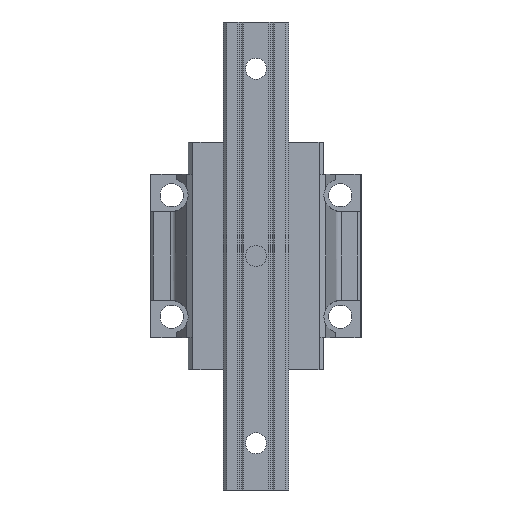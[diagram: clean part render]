
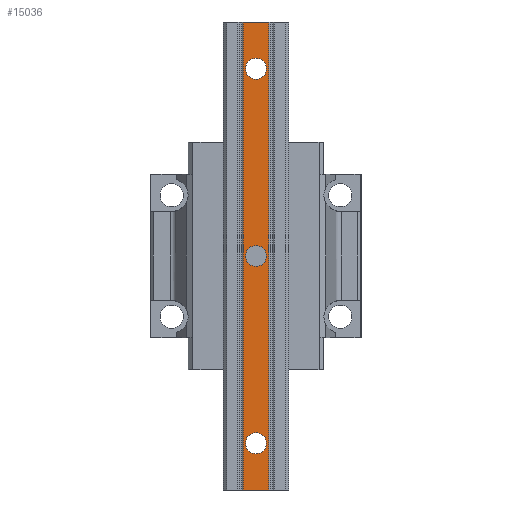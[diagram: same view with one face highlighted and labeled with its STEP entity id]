
A CAD part, front view. The second image highlights one B-rep face of the part: STEP entity #15036.
In plain terms, the highlighted planar face has unit normal (0, -1, 0).
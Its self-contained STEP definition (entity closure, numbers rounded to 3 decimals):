
#107 = EDGE_CURVE ( 'NONE', #26992, #14025, #6551, .T. ) ;
#167 = ORIENTED_EDGE ( 'NONE', *, *, #7181, .T. ) ;
#184 = AXIS2_PLACEMENT_3D ( 'NONE', #27953, #949, #1714 ) ;
#534 = DIRECTION ( 'NONE',  ( 0., 0., 1. ) ) ;
#707 = CARTESIAN_POINT ( 'NONE',  ( 0., -26., -80. ) ) ;
#823 = VERTEX_POINT ( 'NONE', #14010 ) ;
#949 = DIRECTION ( 'NONE',  ( 0., -1., 0. ) ) ;
#1117 = AXIS2_PLACEMENT_3D ( 'NONE', #22608, #1579, #4875 ) ;
#1330 = FACE_OUTER_BOUND ( 'NONE', #8876, .T. ) ;
#1461 = CARTESIAN_POINT ( 'NONE',  ( -5.55, -26., 100. ) ) ;
#1579 = DIRECTION ( 'NONE',  ( 0., 1., 0. ) ) ;
#1693 = CARTESIAN_POINT ( 'NONE',  ( 5.55, -26., 100. ) ) ;
#1714 = DIRECTION ( 'NONE',  ( 0., 0., -1. ) ) ;
#2122 = VECTOR ( 'NONE', #12591, 1000. ) ;
#2765 = CIRCLE ( 'NONE', #8297, 4.5 ) ;
#3314 = VECTOR ( 'NONE', #11671, 1000. ) ;
#4178 = DIRECTION ( 'NONE',  ( -1., 0., 0. ) ) ;
#4241 = FACE_BOUND ( 'NONE', #27367, .T. ) ;
#4875 = DIRECTION ( 'NONE',  ( -1., 0., 0. ) ) ;
#4937 = CARTESIAN_POINT ( 'NONE',  ( 4.5, -26., -80. ) ) ;
#5235 = EDGE_CURVE ( 'NONE', #25202, #21198, #28513, .T. ) ;
#6551 = LINE ( 'NONE', #23743, #21128 ) ;
#7181 = EDGE_CURVE ( 'NONE', #21198, #25202, #29854, .T. ) ;
#7398 = DIRECTION ( 'NONE',  ( -1., 0., 0. ) ) ;
#7717 = DIRECTION ( 'NONE',  ( -1., 0., 0. ) ) ;
#8297 = AXIS2_PLACEMENT_3D ( 'NONE', #11132, #32367, #12454 ) ;
#8682 = CIRCLE ( 'NONE', #32554, 4.5 ) ;
#8876 = EDGE_LOOP ( 'NONE', ( #11943, #31474, #18367, #9026 ) ) ;
#9026 = ORIENTED_EDGE ( 'NONE', *, *, #107, .T. ) ;
#10164 = VERTEX_POINT ( 'NONE', #4937 ) ;
#10590 = DIRECTION ( 'NONE',  ( 0., 1., 0. ) ) ;
#11046 = DIRECTION ( 'NONE',  ( 0., 1., 0. ) ) ;
#11132 = CARTESIAN_POINT ( 'NONE',  ( 0., -26., 0. ) ) ;
#11236 = DIRECTION ( 'NONE',  ( -1., 0., 0. ) ) ;
#11671 = DIRECTION ( 'NONE',  ( 0., 0., -1. ) ) ;
#11943 = ORIENTED_EDGE ( 'NONE', *, *, #15104, .T. ) ;
#12070 = VERTEX_POINT ( 'NONE', #1693 ) ;
#12454 = DIRECTION ( 'NONE',  ( -1., 0., 0. ) ) ;
#12591 = DIRECTION ( 'NONE',  ( 1., 0., 0. ) ) ;
#13973 = VERTEX_POINT ( 'NONE', #33351 ) ;
#14010 = CARTESIAN_POINT ( 'NONE',  ( -4.5, -26., 0. ) ) ;
#14025 = VERTEX_POINT ( 'NONE', #27792 ) ;
#14392 = CARTESIAN_POINT ( 'NONE',  ( -4.5, -26., 80. ) ) ;
#14498 = AXIS2_PLACEMENT_3D ( 'NONE', #707, #36118, #4178 ) ;
#14525 = VERTEX_POINT ( 'NONE', #1461 ) ;
#14705 = ORIENTED_EDGE ( 'NONE', *, *, #5235, .T. ) ;
#15036 = ADVANCED_FACE ( 'NONE', ( #30069, #4241, #27370, #1330 ), #27174, .T. ) ;
#15104 = EDGE_CURVE ( 'NONE', #14025, #12070, #20427, .T. ) ;
#15265 = AXIS2_PLACEMENT_3D ( 'NONE', #27500, #22132, #7398 ) ;
#16339 = CIRCLE ( 'NONE', #14498, 4.5 ) ;
#16511 = EDGE_LOOP ( 'NONE', ( #36705, #16607 ) ) ;
#16607 = ORIENTED_EDGE ( 'NONE', *, *, #33365, .T. ) ;
#17492 = CARTESIAN_POINT ( 'NONE',  ( 0., -26., 0. ) ) ;
#18159 = DIRECTION ( 'NONE',  ( 1., 0., 0. ) ) ;
#18367 = ORIENTED_EDGE ( 'NONE', *, *, #37144, .T. ) ;
#19156 = VECTOR ( 'NONE', #534, 1000. ) ;
#20179 = EDGE_CURVE ( 'NONE', #14525, #12070, #33652, .T. ) ;
#20427 = LINE ( 'NONE', #32501, #19156 ) ;
#21128 = VECTOR ( 'NONE', #18159, 1000. ) ;
#21198 = VERTEX_POINT ( 'NONE', #21255 ) ;
#21255 = CARTESIAN_POINT ( 'NONE',  ( 4.5, -26., 80. ) ) ;
#21439 = ORIENTED_EDGE ( 'NONE', *, *, #23060, .T. ) ;
#21635 = CARTESIAN_POINT ( 'NONE',  ( 4.5, -26., 0. ) ) ;
#22017 = CIRCLE ( 'NONE', #15265, 4.5 ) ;
#22132 = DIRECTION ( 'NONE',  ( 0., 1., 0. ) ) ;
#22344 = ORIENTED_EDGE ( 'NONE', *, *, #24162, .T. ) ;
#22608 = CARTESIAN_POINT ( 'NONE',  ( 0., -26., 80. ) ) ;
#23060 = EDGE_CURVE ( 'NONE', #10164, #13973, #16339, .T. ) ;
#23316 = LINE ( 'NONE', #37873, #3314 ) ;
#23743 = CARTESIAN_POINT ( 'NONE',  ( 0., -26., -100. ) ) ;
#24162 = EDGE_CURVE ( 'NONE', #13973, #10164, #22017, .T. ) ;
#25202 = VERTEX_POINT ( 'NONE', #14392 ) ;
#26992 = VERTEX_POINT ( 'NONE', #32556 ) ;
#27174 = PLANE ( 'NONE',  #184 ) ;
#27278 = AXIS2_PLACEMENT_3D ( 'NONE', #31073, #10590, #7717 ) ;
#27367 = EDGE_LOOP ( 'NONE', ( #14705, #167 ) ) ;
#27370 = FACE_BOUND ( 'NONE', #16511, .T. ) ;
#27500 = CARTESIAN_POINT ( 'NONE',  ( 0., -26., -80. ) ) ;
#27792 = CARTESIAN_POINT ( 'NONE',  ( 5.55, -26., -100. ) ) ;
#27953 = CARTESIAN_POINT ( 'NONE',  ( -5.55, -26., -100. ) ) ;
#28513 = CIRCLE ( 'NONE', #27278, 4.5 ) ;
#29854 = CIRCLE ( 'NONE', #1117, 4.5 ) ;
#30069 = FACE_BOUND ( 'NONE', #34452, .T. ) ;
#30962 = CARTESIAN_POINT ( 'NONE',  ( 0., -26., 100. ) ) ;
#31073 = CARTESIAN_POINT ( 'NONE',  ( 0., -26., 80. ) ) ;
#31474 = ORIENTED_EDGE ( 'NONE', *, *, #20179, .F. ) ;
#32367 = DIRECTION ( 'NONE',  ( 0., 1., 0. ) ) ;
#32501 = CARTESIAN_POINT ( 'NONE',  ( 5.55, -26., -100. ) ) ;
#32554 = AXIS2_PLACEMENT_3D ( 'NONE', #17492, #11046, #11236 ) ;
#32556 = CARTESIAN_POINT ( 'NONE',  ( -5.55, -26., -100. ) ) ;
#33351 = CARTESIAN_POINT ( 'NONE',  ( -4.5, -26., -80. ) ) ;
#33365 = EDGE_CURVE ( 'NONE', #34912, #823, #2765, .T. ) ;
#33652 = LINE ( 'NONE', #30962, #2122 ) ;
#34452 = EDGE_LOOP ( 'NONE', ( #22344, #21439 ) ) ;
#34912 = VERTEX_POINT ( 'NONE', #21635 ) ;
#35643 = EDGE_CURVE ( 'NONE', #823, #34912, #8682, .T. ) ;
#36118 = DIRECTION ( 'NONE',  ( 0., 1., 0. ) ) ;
#36705 = ORIENTED_EDGE ( 'NONE', *, *, #35643, .T. ) ;
#37144 = EDGE_CURVE ( 'NONE', #14525, #26992, #23316, .T. ) ;
#37873 = CARTESIAN_POINT ( 'NONE',  ( -5.55, -26., -100. ) ) ;
